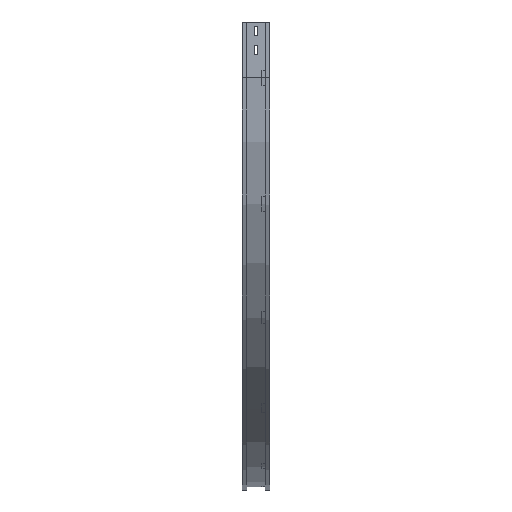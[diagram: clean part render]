
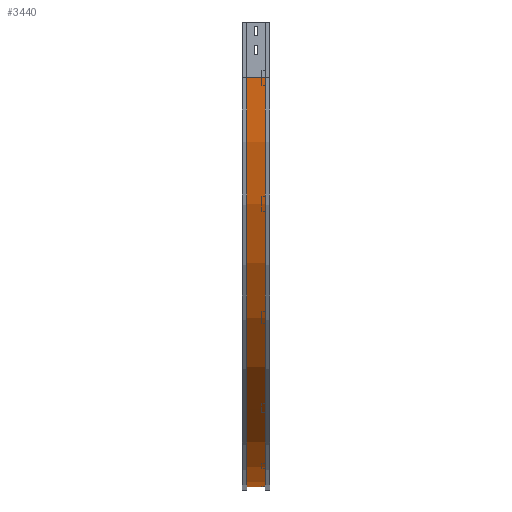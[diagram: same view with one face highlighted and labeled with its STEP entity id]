
A CAD part, left-side view. The second image highlights one B-rep face of the part: STEP entity #3440.
In plain terms, the highlighted cylindrical face has radius 1100 mm (diameter 2200 mm), a partial arc.
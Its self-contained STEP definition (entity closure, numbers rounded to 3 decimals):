
#15 = DIRECTION ( 'NONE',  ( -1., 0., 0. ) ) ;
#41 = FACE_OUTER_BOUND ( 'NONE', #1694, .T. ) ;
#56 = DIRECTION ( 'NONE',  ( 0., 0., -1. ) ) ;
#80 = CIRCLE ( 'NONE', #1463, 1100. ) ;
#146 = CARTESIAN_POINT ( 'NONE',  ( 1109., 63., -1250. ) ) ;
#384 = VERTEX_POINT ( 'NONE', #653 ) ;
#489 = CARTESIAN_POINT ( 'NONE',  ( 9., 63., -150. ) ) ;
#559 = ORIENTED_EDGE ( 'NONE', *, *, #1319, .T. ) ;
#569 = EDGE_CURVE ( 'NONE', #2906, #384, #80, .T. ) ;
#653 = CARTESIAN_POINT ( 'NONE',  ( 1109., 12., -1250. ) ) ;
#823 = DIRECTION ( 'NONE',  ( -1., 0., 0. ) ) ;
#832 = CYLINDRICAL_SURFACE ( 'NONE', #1580, 1100. ) ;
#902 = CIRCLE ( 'NONE', #2968, 1100. ) ;
#914 = VERTEX_POINT ( 'NONE', #489 ) ;
#962 = ORIENTED_EDGE ( 'NONE', *, *, #2881, .F. ) ;
#1011 = DIRECTION ( 'NONE',  ( 0., -1., 0. ) ) ;
#1319 = EDGE_CURVE ( 'NONE', #914, #2345, #902, .T. ) ;
#1378 = EDGE_CURVE ( 'NONE', #2345, #384, #1593, .T. ) ;
#1463 = AXIS2_PLACEMENT_3D ( 'NONE', #3235, #2986, #823 ) ;
#1580 = AXIS2_PLACEMENT_3D ( 'NONE', #2712, #2113, #56 ) ;
#1582 = ORIENTED_EDGE ( 'NONE', *, *, #569, .F. ) ;
#1593 = LINE ( 'NONE', #2829, #2419 ) ;
#1694 = EDGE_LOOP ( 'NONE', ( #1582, #962, #559, #3354 ) ) ;
#1770 = LINE ( 'NONE', #3377, #3243 ) ;
#2113 = DIRECTION ( 'NONE',  ( 0., -1., 0. ) ) ;
#2345 = VERTEX_POINT ( 'NONE', #146 ) ;
#2390 = CARTESIAN_POINT ( 'NONE',  ( 1109., 63., -150. ) ) ;
#2419 = VECTOR ( 'NONE', #2924, 1000. ) ;
#2568 = CARTESIAN_POINT ( 'NONE',  ( 9., 12., -150. ) ) ;
#2712 = CARTESIAN_POINT ( 'NONE',  ( 1109., 0., -150. ) ) ;
#2829 = CARTESIAN_POINT ( 'NONE',  ( 1109., 12., -1250. ) ) ;
#2881 = EDGE_CURVE ( 'NONE', #914, #2906, #1770, .T. ) ;
#2906 = VERTEX_POINT ( 'NONE', #2568 ) ;
#2924 = DIRECTION ( 'NONE',  ( 0., -1., 0. ) ) ;
#2968 = AXIS2_PLACEMENT_3D ( 'NONE', #2390, #3201, #15 ) ;
#2986 = DIRECTION ( 'NONE',  ( 0., -1., 0. ) ) ;
#3201 = DIRECTION ( 'NONE',  ( 0., -1., 0. ) ) ;
#3235 = CARTESIAN_POINT ( 'NONE',  ( 1109., 12., -150. ) ) ;
#3243 = VECTOR ( 'NONE', #1011, 1000. ) ;
#3354 = ORIENTED_EDGE ( 'NONE', *, *, #1378, .T. ) ;
#3377 = CARTESIAN_POINT ( 'NONE',  ( 9., 12., -150. ) ) ;
#3440 = ADVANCED_FACE ( 'NONE', ( #41 ), #832, .T. ) ;
